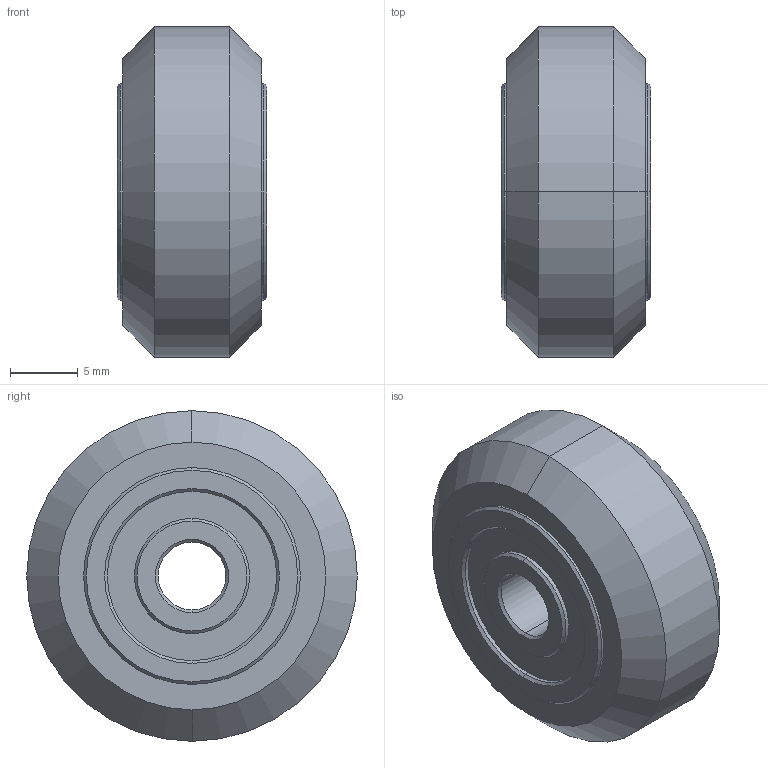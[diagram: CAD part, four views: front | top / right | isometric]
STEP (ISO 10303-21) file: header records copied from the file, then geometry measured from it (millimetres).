
FILE_DESCRIPTION (( 'STEP AP203' ), '1' );
FILE_NAME ('VWheel.step', '2026-08-22T11:39:01', ( '' ), ( '' ), 'SwSTEP 2.0', 'SolidWorks 2026', '' );
FILE_SCHEMA (( 'CONFIG_CONTROL_DESIGN' ));
Length unit declared in the file: millimetre
Products named in the file (1): VWheel
Bounding box: 11 x 24.4 x 24.4 mm (x, y, z)
Volume: 4255 mm3; surface area: 2728.4 mm2
Topology: 2 solids, 2 shells, 44 faces, 88 edges, 52 vertices
Faces by surface type: cone 20, cylinder 16, plane 8
Entity records: 1227 total; most frequent: DIRECTION 230, CARTESIAN_POINT 185, ORIENTED_EDGE 176, AXIS2_PLACEMENT_3D 97, EDGE_CURVE 88, CIRCLE 52, VERTEX_POINT 52, EDGE_LOOP 52
